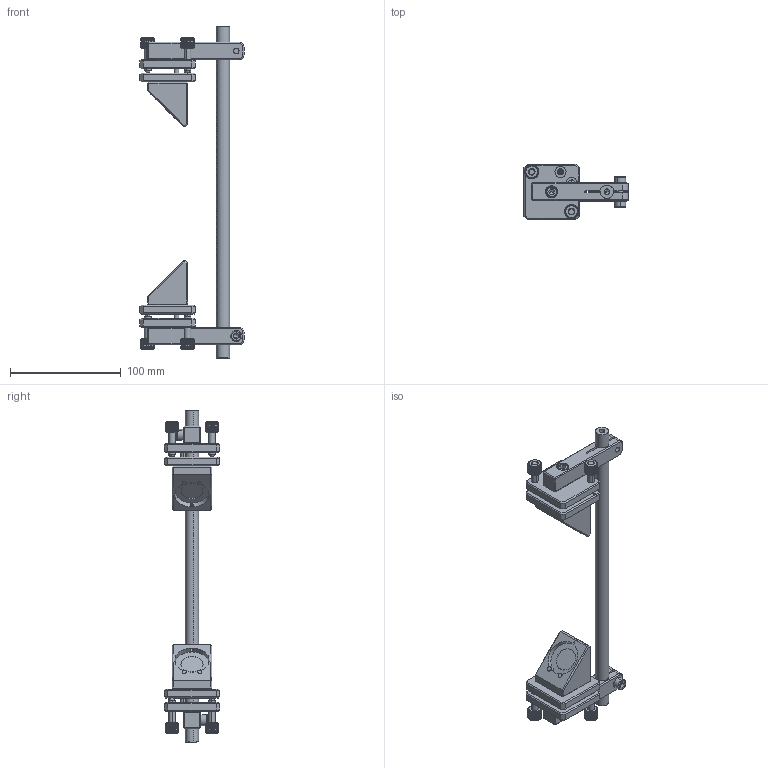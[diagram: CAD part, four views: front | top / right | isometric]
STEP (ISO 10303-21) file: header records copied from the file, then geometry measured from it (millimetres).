
FILE_DESCRIPTION (( 'STEP AP203' ), '1' );
FILE_NAME ('HGMMS130.STEP', '2021-01-21T05:44:15', ( 'yunke' ), ( '' ), 'SwSTEP 2.0', 'SolidWorks 2020', '' );
FILE_SCHEMA (( 'CONFIG_CONTROL_DESIGN' ));
Length unit declared in the file: millimetre
Products named in the file (18): HGMMS120-1 光束转折架固定板; hexagon socket head cap screws gb_GB_FASTENER_SCREWS_HSHCS M3X8-N; HGMMS130; M6x0.25-20-30 蹟恇裝; 幗紩 耳6; hexagon socket head cap screws gb_GB_FASTENER_SCREWS_HSHCS M6X16-N; HGMP2300 盓傅裝; cross recessed pan head screws gb_GB_CROSS_SCREWS_TYPE1 M3X6-6  H type-N; hex socket set screws with cone point gb_GB_FASTENER_SCREWS_HSCP M3X3-N; HGMMS120-2 光束转折架活动版; 鼠蚚蟀諉璃-肣秶; D12.5d6M3 幗豪忒謫; hexagon socket head cap screws gb_GB_FASTENER_SCREWS_HSHCS M6X12-N; HGMMS120-5 光束转折架镜片固定柱; hex socket set screws with flat point gb_GB_FASTENER_SCREWS_HSFP M4X5-N; HGMMS130-4 光束转折架反光板; 幗紩 耳4; HGMMS120-3 光束转折架调节板
Assembly tree (57 placements, depth 2):
  HGMMS130
    HGMMS120-1 光束转折架固定板  x2
    HGMMS120-2 光束转折架活动版  x2
    HGMP2300 盓傅裝
    HGMMS120-3 光束转折架调节板  x2
    HGMMS130-4 光束转折架反光板  x2
    hexagon socket head cap screws gb_GB_FASTENER_SCREWS_HSHCS M6X12-N  x2
    hex socket set screws with flat point gb_GB_FASTENER_SCREWS_HSFP M4X5-N  x2
    hexagon socket head cap screws gb_GB_FASTENER_SCREWS_HSHCS M6X16-N  x2
    hexagon socket head cap screws gb_GB_FASTENER_SCREWS_HSHCS M3X8-N  x8
    鼠蚚蟀諉璃-肣秶  x4
    cross recessed pan head screws gb_GB_CROSS_SCREWS_TYPE1 M3X6-6  H type-N  x8
    HGMMS120-5 光束转折架镜片固定柱  x4
    M6x0.25-20-30 蹟恇裝  x4
    D12.5d6M3 幗豪忒謫  x4
    幗紩 耳6  x2
    幗紩 耳4  x4
    hex socket set screws with cone point gb_GB_FASTENER_SCREWS_HSCP M3X3-N  x4
Bounding box: 94 x 50 x 300 mm (x, y, z)
Volume: 212145.9 mm3; surface area: 82387.1 mm2
Topology: 57 solids, 57 shells, 2030 faces, 5318 edges, 3382 vertices
Faces by surface type: plane 1204, cylinder 608, cone 162, sphere 32, torus 24
Entity records: 21627 total; most frequent: CARTESIAN_POINT 4199, ORIENTED_EDGE 3020, DIRECTION 2988, EDGE_CURVE 1510, AXIS2_PLACEMENT_3D 1123, VERTEX_POINT 965, LINE 742, VECTOR 742
